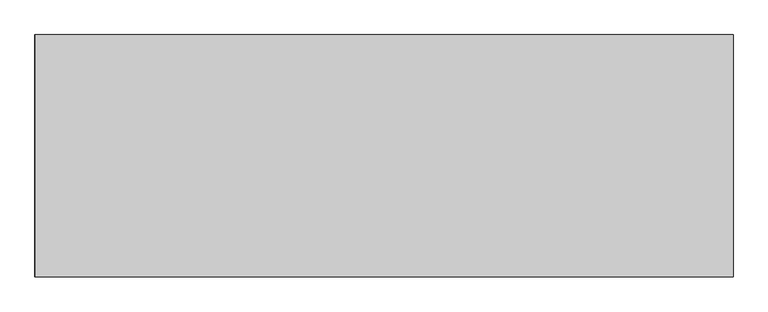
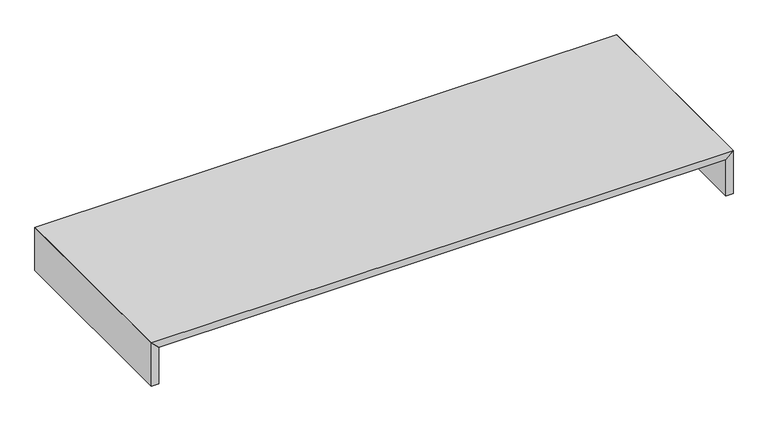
"""IFC4 building model written with IfcOpenShell, lengths in millimetres: proxy geometry, AERO^OFFICE 4_25x78 HAT SHROUD-PARTS SOLID."""

from ifc_helpers import new_model, si_unit, frame, origin, place, context, project, spatial, polyline, outline, extrude, source, transform, mapped, element, save


def generic_models_e00c9031(model_context):
    return source(origin(), model_context, "Body", "SweptSolid", [
        extrude(outline(polyline([(-19.05, 19.05), (0.0, 0.0), (-120.65, 0.0), (-120.65, 19.05), (-19.05, 19.05)])), frame((0.0, 0.0, 0.0), z_axis=(0.0, 1.0, 0.0), x_axis=(0.0, 0.0, 1.0)), (0.0, 0.0, 1.0), 533.4),
        extrude(outline(polyline([(0.0, 1536.7), (0.0, 0.0), (-19.05, 19.05), (-19.05, 1517.65), (0.0, 1536.7)])), frame((0.0, 0.0, 0.0), z_axis=(0.0, 1.0, 0.0), x_axis=(0.0, 0.0, 1.0)), (0.0, 0.0, 1.0), 533.4),
        extrude(outline(polyline([(-120.65, 1517.65), (-120.65, 1536.7), (0.0, 1536.7), (-19.05, 1517.65), (-120.65, 1517.65)])), frame((0.0, 0.0, 0.0), z_axis=(0.0, 1.0, 0.0), x_axis=(0.0, 0.0, 1.0)), (0.0, 0.0, 1.0), 533.4),
    ])


if __name__ == "__main__":
    model = new_model("IFC4")
    model_context = context("Model", 3, world=origin())
    ifc_project = project(units=[si_unit("LENGTHUNIT", "METRE", prefix="MILLI")], contexts=[model_context])
    site = spatial("IfcSite", under=ifc_project)
    building = spatial("IfcBuilding", under=site)
    placement = place(None, origin())
    generic_models_shape = generic_models_e00c9031(model_context)
    element("IfcBuildingElementProxy", 1, Name="AERO^OFFICE 4_25x78 HAT SHROUD-PARTS SOLID", ObjectType="AERO^OFFICE 4_25x78 HAT SHROUD-PARTS SOLID", at=placement, inside=building, context=model_context, shape_type="MappedRepresentation", body=[
        mapped(generic_models_shape, transform((0.0, 0.0, 0.0), x_axis=(1.0, 0.0, 0.0), y_axis=(0.0, 1.0, 0.0), z_axis=(0.0, 0.0, 1.0))),
    ])
    save(model, "model.ifc")
